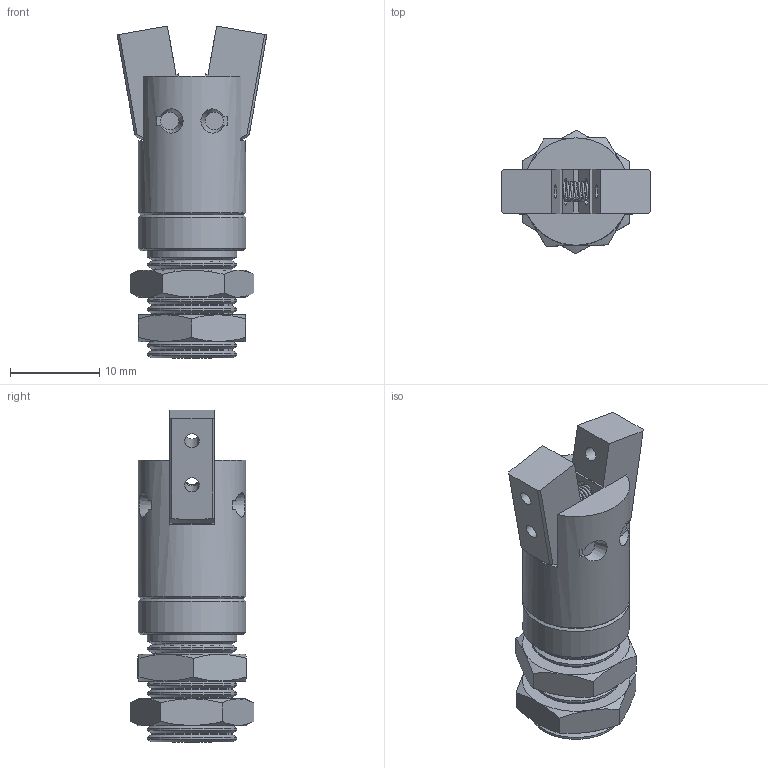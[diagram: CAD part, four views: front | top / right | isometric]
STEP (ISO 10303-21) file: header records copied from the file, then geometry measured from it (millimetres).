
FILE_DESCRIPTION (( 'STEP AP214' ), '1' );
FILE_NAME ('1226.STEP', '2024-06-20T12:57:41', ( '' ), ( '' ), 'SwSTEP 2.0', 'SolidWorks 2022', '' );
FILE_SCHEMA (( 'AUTOMOTIVE_DESIGN' ));
Length unit declared in the file: millimetre
Products named in the file (3): 727-728_1226 Part B; 1226; 727-728_1226 Open
Assembly tree (3 placements, depth 2):
  1226
    727-728_1226 Open
    727-728_1226 Part B  x2
Bounding box: 16.72 x 13.86 x 37.12 mm (x, y, z)
Volume: 3568.6 mm3; surface area: 3342.8 mm2
Topology: 8 solids, 8 shells, 167 faces, 386 edges, 239 vertices
Faces by surface type: plane 68, cone 56, cylinder 42, bspline 1
Full cylindrical faces by diameter (mm): 1.6 x4, 2 x8, 3 x2, 4.2 x1, 9 x2, 9.001 x11, 10 x11, 10.001 x1, 12 x2
Entity records: 5213 total; most frequent: CARTESIAN_POINT 1929, DIRECTION 614, ORIENTED_EDGE 484, AXIS2_PLACEMENT_3D 267, EDGE_CURVE 242, EDGE_LOOP 240, FACE_OUTER_BOUND 188, VERTEX_POINT 182
